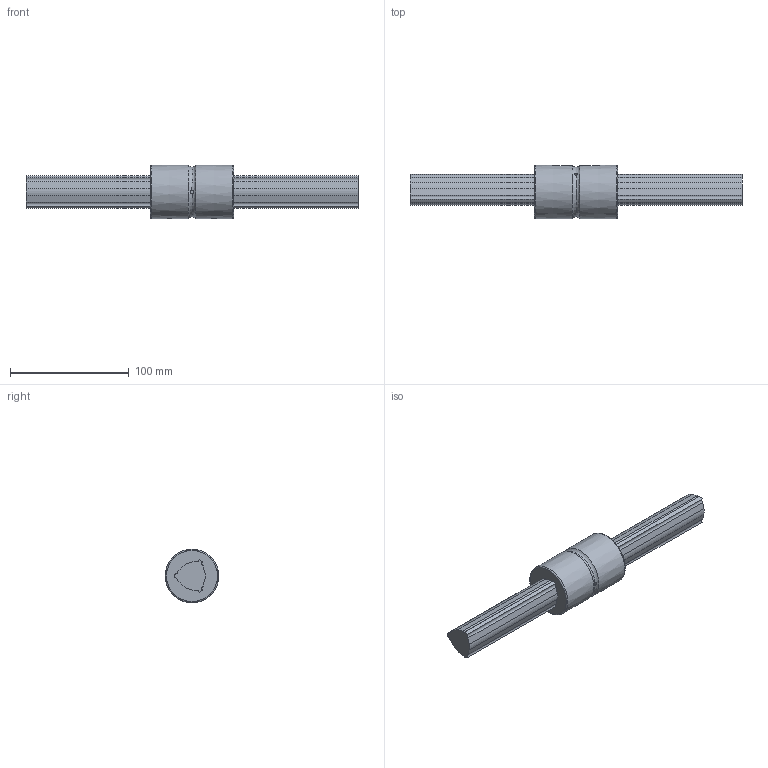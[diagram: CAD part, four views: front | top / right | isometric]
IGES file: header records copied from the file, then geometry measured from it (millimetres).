
Start section: Data from Parasolid IGES Translator 26.0.171, Copyright(c) 2006 Siemens PLM Software. All Rights Reserved.
Global section: file name: LBS30+280L(701050).igs; native system: By Siemens PLM Incorporated; preprocessor: XPlus GENERIC/IGES 26.0.171; author: Noname; organization: Noname; date: 20240523.115825; units: millimetre
Bounding box: 280 x 45 x 45 mm (x, y, z)
Surface area: 43439.5 mm2 (no closed solid volume)
Topology: 0 solids, 0 shells, 61 faces, 338 edges, 331 vertices
Faces by surface type: revolution 39, extrusion 22
